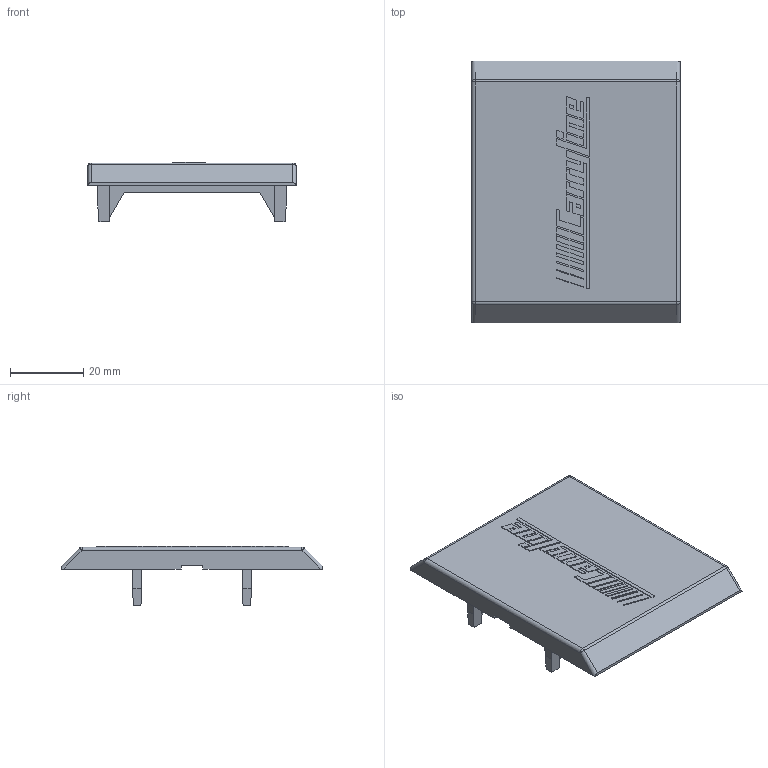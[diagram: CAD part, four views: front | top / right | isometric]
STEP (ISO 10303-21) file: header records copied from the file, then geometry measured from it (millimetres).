
FILE_DESCRIPTION(/* description */ ('COVER CAP FOR 100-4030'),/* implementation_level */ '2;1');
FILE_NAME(/* name */ 'X:\Carryline\Katalog\STEP-Carryline Standarddelar\Serie 100\100-4130.stp',/* time_stamp */ '2014-07-08T12:24:16+02:00',/* author */ ('mathias'),/* organization */ ('CARRYLINE'),/* preprocessor_version */ 'ST-DEVELOPER v15.2',/* originating_system */ 'Autodesk Inventor 2014',/* authorisation */ '');
FILE_SCHEMA (('AUTOMOTIVE_DESIGN { 1 0 10303 214 3 1 1 }'));
Length unit declared in the file: millimetre
Products named in the file (1): 100-4130
Bounding box: 57 x 71.5 x 16.2 mm (x, y, z)
Volume: 14550.8 mm3; surface area: 11169.7 mm2
Topology: 1 solids, 1 shells, 213 faces, 556 edges, 364 vertices
Faces by surface type: plane 185, cylinder 20, bspline 4, sphere 4
Entity records: 6503 total; most frequent: CARTESIAN_POINT 1210, ORIENTED_EDGE 1112, DIRECTION 1024, EDGE_CURVE 556, LINE 508, VECTOR 508, VERTEX_POINT 364, AXIS2_PLACEMENT_3D 258
